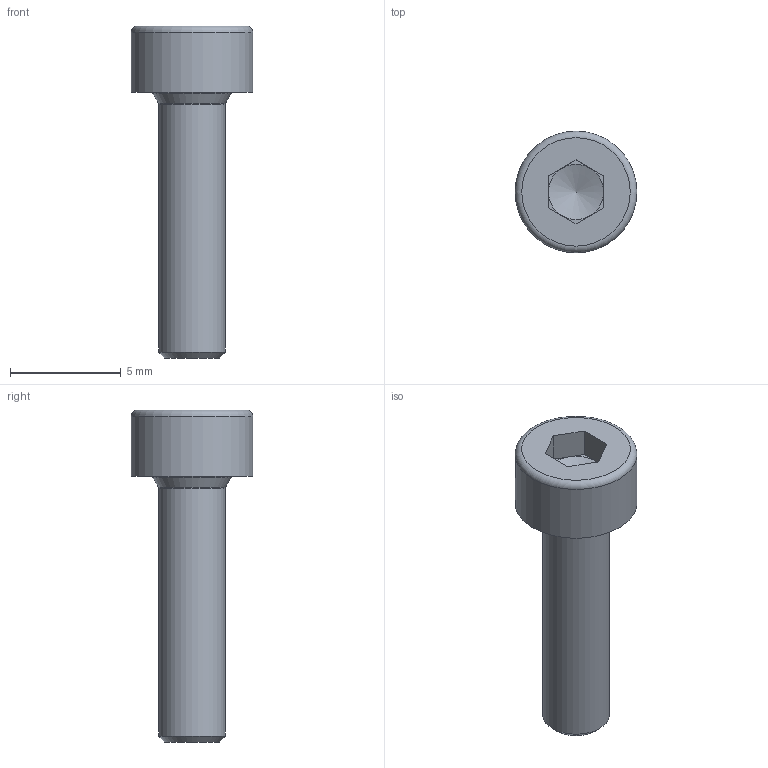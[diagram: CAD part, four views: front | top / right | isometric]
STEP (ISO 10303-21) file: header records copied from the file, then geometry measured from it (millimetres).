
FILE_DESCRIPTION(/* description */ ('STEP AP242 Edition 2','CAx-IF Rec.Pracs.---Representation and Presentation of Product Manufacturing Information (PMI)---4.0---2014-10-13','CAx-IF Rec.Pracs.---3D Tessellated Geometry---0.4---2014-09-14','2;1','CAx-IF Rec.Pracs.---User Defined Attributes---1.5---2016-08-15'),/* implementation_level */ '2;1');
FILE_NAME(/* name */ 'Assy_ForMFG - Hex socket head cap screw M3x0.50 x 12 (2)',/* time_stamp */ '2026-05-15T19:56:12Z',/* author */ (''),/* organization */ (''),/* preprocessor_version */ 'ST-DEVELOPER v20',/* originating_system */ 'ONSHAPE BY PTC INC, 1.215',/* authorisation */ ' ');
FILE_SCHEMA (('AP242_MANAGED_MODEL_BASED_3D_ENGINEERING_MIM_LF { 1 0 10303 442 3 1 4 }'));
Length unit declared in the file: metre
Products named in the file (1): Hex socket head cap screw M3x0.50 x 12
Bounding box: 5.5 x 5.5 x 15 mm (x, y, z)
Volume: 148.4 mm3; surface area: 218.3 mm2
Topology: 1 solids, 1 shells, 23 faces, 49 edges, 29 vertices
Faces by surface type: plane 15, torus 3, cone 3, cylinder 2
Full cylindrical faces by diameter (mm): 3 x1, 5.5 x1
Entity records: 578 total; most frequent: DIRECTION 102, CARTESIAN_POINT 91, ORIENTED_EDGE 78, EDGE_CURVE 39, AXIS2_PLACEMENT_3D 39, FACE_BOUND 33, EDGE_LOOP 32, VERTEX_POINT 28
